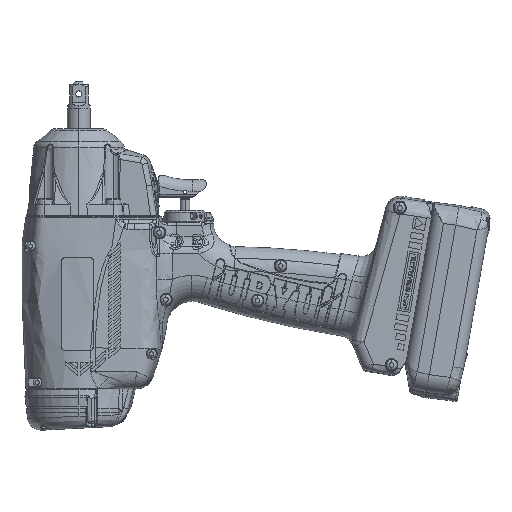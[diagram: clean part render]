
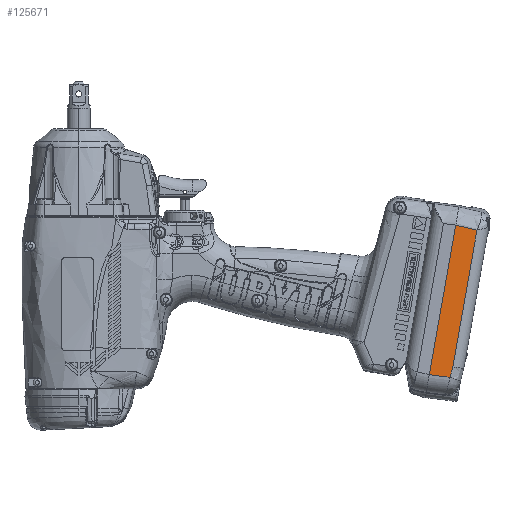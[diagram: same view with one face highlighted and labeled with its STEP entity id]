
A CAD part, left-side view. The second image highlights one B-rep face of the part: STEP entity #125671.
In plain terms, the highlighted planar face has unit normal (-0.999, -0.051, -0.009) as drawn and (-0.999, 0, -0.052) by its records, which use the part's own axes.
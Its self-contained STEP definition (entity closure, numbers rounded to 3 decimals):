
#7473 = ORIENTED_EDGE ( 'NONE', *, *, #252180, .T. ) ;
#15082 = B_SPLINE_CURVE_WITH_KNOTS ( 'NONE', 3,
 ( #139897, #62571, #156939, #197623 ),
 .UNSPECIFIED., .F., .F.,
 ( 4, 4 ),
 ( 0., 1. ),
 .UNSPECIFIED. ) ;
#24505 = VERTEX_POINT ( 'NONE', #248900 ) ;
#34879 = VECTOR ( 'NONE', #106617, 1000. ) ;
#45454 = AXIS2_PLACEMENT_3D ( 'NONE', #145650, #47881, #122750 ) ;
#47881 = DIRECTION ( 'NONE',  ( -0.999, 0., -0.052 ) ) ;
#55777 = DIRECTION ( 'NONE',  ( -0.052, -0.049, 0.997 ) ) ;
#56984 = FACE_OUTER_BOUND ( 'NONE', #92451, .T. ) ;
#62571 = CARTESIAN_POINT ( 'NONE',  ( -37.242, -0.748, -8.814 ) ) ;
#64496 = ORIENTED_EDGE ( 'NONE', *, *, #148243, .F. ) ;
#71790 = VECTOR ( 'NONE', #55777, 1000. ) ;
#86503 = LINE ( 'NONE', #222902, #34879 ) ;
#92451 = EDGE_LOOP ( 'NONE', ( #219613, #94939, #157375, #64496, #7473 ) ) ;
#94939 = ORIENTED_EDGE ( 'NONE', *, *, #100474, .T. ) ;
#96736 = VERTEX_POINT ( 'NONE', #236030 ) ;
#97858 = VECTOR ( 'NONE', #125455, 1000. ) ;
#98711 = VERTEX_POINT ( 'NONE', #173133 ) ;
#100474 = EDGE_CURVE ( 'NONE', #112412, #98711, #150131, .T. ) ;
#105935 = CARTESIAN_POINT ( 'NONE',  ( -37.242, -87.22, -8.814 ) ) ;
#106617 = DIRECTION ( 'NONE',  ( 0., 1., 0. ) ) ;
#112412 = VERTEX_POINT ( 'NONE', #141477 ) ;
#122750 = DIRECTION ( 'NONE',  ( -0.052, 0., 0.999 ) ) ;
#125455 = DIRECTION ( 'NONE',  ( 0., 1., 0. ) ) ;
#125671 = ADVANCED_FACE ( 'NONE', ( #56984 ), #203304, .T. ) ;
#134436 = LINE ( 'NONE', #105935, #97858 ) ;
#139897 = CARTESIAN_POINT ( 'NONE',  ( -37.242, -2.656, -8.814 ) ) ;
#141477 = CARTESIAN_POINT ( 'NONE',  ( -37.835, 3.57, 2.5 ) ) ;
#145650 = CARTESIAN_POINT ( 'NONE',  ( -37.835, -35.77, 2.5 ) ) ;
#148243 = EDGE_CURVE ( 'NONE', #24505, #96736, #134436, .T. ) ;
#150131 = LINE ( 'NONE', #248661, #204877 ) ;
#152705 = DIRECTION ( 'NONE',  ( 0.052, -0.05, -0.997 ) ) ;
#154263 = VERTEX_POINT ( 'NONE', #215620 ) ;
#154318 = CARTESIAN_POINT ( 'NONE',  ( -37.242, -74.592, -8.814 ) ) ;
#156939 = CARTESIAN_POINT ( 'NONE',  ( -37.251, 1.147, -8.655 ) ) ;
#157375 = ORIENTED_EDGE ( 'NONE', *, *, #217044, .F. ) ;
#173133 = CARTESIAN_POINT ( 'NONE',  ( -37.268, 3.028, -8.336 ) ) ;
#197623 = CARTESIAN_POINT ( 'NONE',  ( -37.268, 3.028, -8.336 ) ) ;
#203304 = PLANE ( 'NONE',  #45454 ) ;
#204877 = VECTOR ( 'NONE', #152705, 1000. ) ;
#215620 = CARTESIAN_POINT ( 'NONE',  ( -37.835, -75.147, 2.5 ) ) ;
#217044 = EDGE_CURVE ( 'NONE', #96736, #98711, #15082, .T. ) ;
#219613 = ORIENTED_EDGE ( 'NONE', *, *, #229168, .T. ) ;
#222902 = CARTESIAN_POINT ( 'NONE',  ( -37.835, -35.77, 2.5 ) ) ;
#229168 = EDGE_CURVE ( 'NONE', #154263, #112412, #86503, .T. ) ;
#236030 = CARTESIAN_POINT ( 'NONE',  ( -37.242, -2.656, -8.814 ) ) ;
#245070 = LINE ( 'NONE', #154318, #71790 ) ;
#248661 = CARTESIAN_POINT ( 'NONE',  ( -37.835, 3.57, 2.5 ) ) ;
#248900 = CARTESIAN_POINT ( 'NONE',  ( -37.242, -74.592, -8.814 ) ) ;
#252180 = EDGE_CURVE ( 'NONE', #24505, #154263, #245070, .T. ) ;
